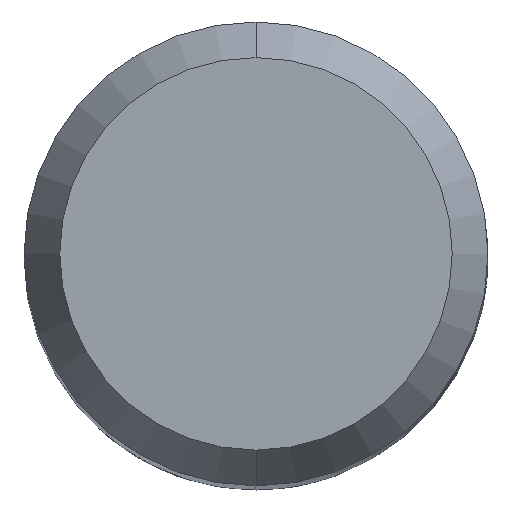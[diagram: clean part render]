
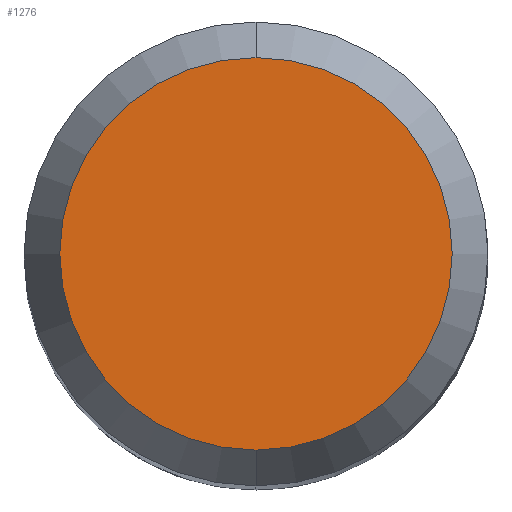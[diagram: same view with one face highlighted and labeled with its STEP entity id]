
A CAD part, top view. The second image highlights one B-rep face of the part: STEP entity #1276.
In plain terms, the highlighted planar face has unit normal (0, 0, 1).
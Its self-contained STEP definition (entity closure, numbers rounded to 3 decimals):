
#598=VERTEX_POINT('',#1518);
#616=EDGE_CURVE('',#1260,#598,#1537,.T.);
#950=EDGE_CURVE('',#598,#1260,#1902,.T.);
#1260=VERTEX_POINT('',#2238);
#1276=ADVANCED_FACE('',(#2259),#2260,.T.);
#1518=CARTESIAN_POINT('',(0.0,2.538,0.0));
#1537=CIRCLE('',#2815,2.538);
#1902=CIRCLE('',#4493,2.538);
#2238=CARTESIAN_POINT('',(0.,-2.538,0.0));
#2259=FACE_OUTER_BOUND('',#6187,.T.);
#2260=PLANE('',#6188);
#2815=AXIS2_PLACEMENT_3D('',#6674,#6675,#6676);
#4493=AXIS2_PLACEMENT_3D('',#7037,#7038,#7039);
#6187=EDGE_LOOP('',(#7482,#7483));
#6188=AXIS2_PLACEMENT_3D('',#7484,#7485,#7486);
#6674=CARTESIAN_POINT('',(0.0,0.0,0.0));
#6675=DIRECTION('',(0.0,0.0,-1.0));
#6676=DIRECTION('',(0.0,1.0,0.0));
#7037=CARTESIAN_POINT('',(0.0,0.0,0.0));
#7038=DIRECTION('',(0.0,0.0,-1.0));
#7039=DIRECTION('',(0.0,1.0,0.0));
#7482=ORIENTED_EDGE('',*,*,#950,.F.);
#7483=ORIENTED_EDGE('',*,*,#616,.F.);
#7484=CARTESIAN_POINT('',(0.0,1.269,0.0));
#7485=DIRECTION('',(-0.0,0.0,1.0));
#7486=DIRECTION('',(0.0,-1.0,0.0));
